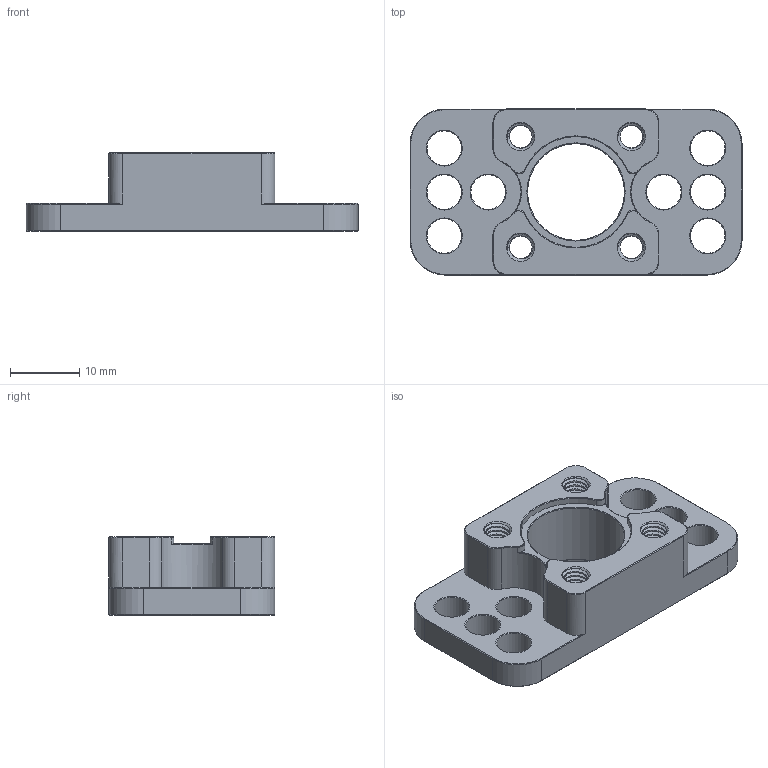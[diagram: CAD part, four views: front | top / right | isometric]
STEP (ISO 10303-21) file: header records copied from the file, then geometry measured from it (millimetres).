
FILE_DESCRIPTION(/* description */ (''),/* implementation_level */ '2;1');
FILE_NAME(/* name */ '1206-0016-0012.step',/* time_stamp */ '2025-12-09T07:27:55-06:00',/* author */ (''),/* organization */ (''),/* preprocessor_version */ 'ST-DEVELOPER v20.1',/* originating_system */ 'Autodesk Translation Framework v14.21.0.0',/* authorisation */ '');
FILE_SCHEMA (('AUTOMOTIVE_DESIGN { 1 0 10303 214 3 1 1 }'));
Length unit declared in the file: millimetre
Products named in the file (1): __1206-0016-0012 Robits adapter
Bounding box: 48 x 24 x 11.3 mm (x, y, z)
Volume: 5336.5 mm3; surface area: 4558.7 mm2
Topology: 1 solids, 1 shells, 272 faces, 732 edges, 463 vertices
Faces by surface type: cylinder 170, cone 63, plane 31, bspline 8
Full cylindrical faces by diameter (mm): 3.3 x60, 4 x64, 5 x8, 14 x1, 16 x1
Entity records: 25640 total; most frequent: CARTESIAN_POINT 19248, ORIENTED_EDGE 1464, DIRECTION 1125, EDGE_CURVE 732, VERTEX_POINT 463, AXIS2_PLACEMENT_3D 420, EDGE_LOOP 299, B_SPLINE_CURVE_WITH_KNOTS 292
